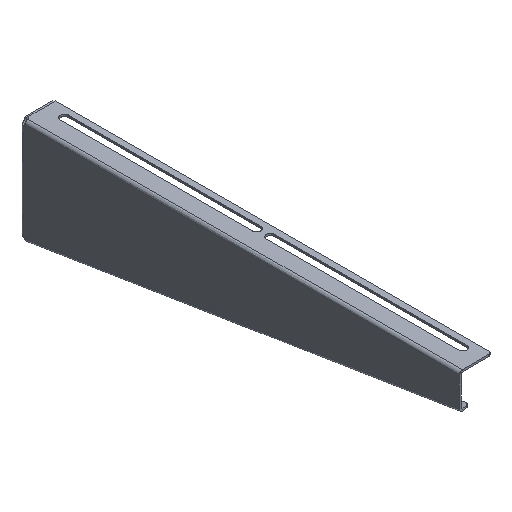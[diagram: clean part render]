
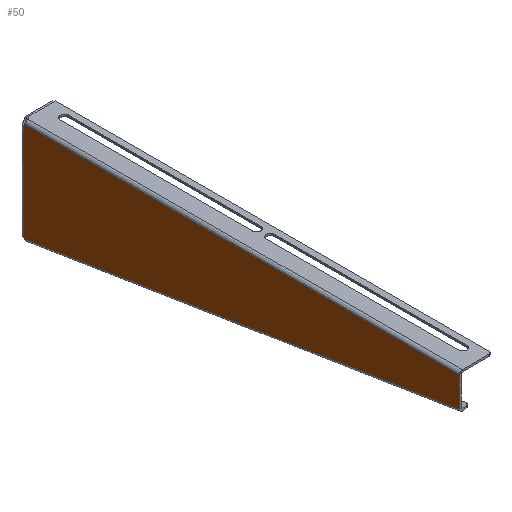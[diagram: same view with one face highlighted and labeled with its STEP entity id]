
A CAD part, isometric view. The second image highlights one B-rep face of the part: STEP entity #50.
In plain terms, the highlighted planar face has unit normal (-1, 0, 0).
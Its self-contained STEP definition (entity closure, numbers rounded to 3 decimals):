
#50=ADVANCED_FACE('',(#105),#850,.T.);
#105=FACE_OUTER_BOUND('',#164,.T.);
#164=EDGE_LOOP('',(#329,#330,#331,#332,#333,#334));
#329=ORIENTED_EDGE('',*,*,#526,.T.);
#330=ORIENTED_EDGE('',*,*,#536,.T.);
#331=ORIENTED_EDGE('',*,*,#535,.T.);
#332=ORIENTED_EDGE('',*,*,#539,.T.);
#333=ORIENTED_EDGE('',*,*,#542,.T.);
#334=ORIENTED_EDGE('',*,*,#541,.T.);
#526=EDGE_CURVE('',#792,#789,#617,.T.);
#535=EDGE_CURVE('',#787,#793,#709,.T.);
#536=EDGE_CURVE('',#789,#787,#710,.T.);
#539=EDGE_CURVE('',#793,#750,#713,.T.);
#541=EDGE_CURVE('',#782,#792,#715,.T.);
#542=EDGE_CURVE('',#750,#782,#716,.T.);
#617=B_SPLINE_CURVE_WITH_KNOTS('',3,(#1631,#1632,#1633,#1634),
 .UNSPECIFIED.,.F.,.F.,(4,4),(-445.85,0.),.UNSPECIFIED.);
#709=(
BOUNDED_CURVE()
B_SPLINE_CURVE(2,(#1667,#1668,#1669),.UNSPECIFIED.,.F.,.F.)
B_SPLINE_CURVE_WITH_KNOTS((3,3),(-530.615,-90.444),
 .UNSPECIFIED.)
CURVE()
GEOMETRIC_REPRESENTATION_ITEM()
RATIONAL_B_SPLINE_CURVE((1.,1.,1.))
REPRESENTATION_ITEM('')
);
#710=(
BOUNDED_CURVE()
B_SPLINE_CURVE(2,(#1670,#1671,#1672),.UNSPECIFIED.,.F.,.F.)
B_SPLINE_CURVE_WITH_KNOTS((3,3),(-562.615,-530.615),
 .UNSPECIFIED.)
CURVE()
GEOMETRIC_REPRESENTATION_ITEM()
RATIONAL_B_SPLINE_CURVE((1.,1.,1.))
REPRESENTATION_ITEM('')
);
#713=(
BOUNDED_CURVE()
B_SPLINE_CURVE(2,(#1681,#1682,#1683,#1684,#1685),.UNSPECIFIED.,.F.,.F.)
B_SPLINE_CURVE_WITH_KNOTS((3,2,3),(-90.444,-89.095,
-87.747),.UNSPECIFIED.)
CURVE()
GEOMETRIC_REPRESENTATION_ITEM()
RATIONAL_B_SPLINE_CURVE((1.,0.975,1.,0.975,1.))
REPRESENTATION_ITEM('')
);
#715=(
BOUNDED_CURVE()
B_SPLINE_CURVE(2,(#1691,#1692,#1693,#1694,#1695),.UNSPECIFIED.,.F.,.F.)
B_SPLINE_CURVE_WITH_KNOTS((3,2,3),(11.72,13.069,13.934),
 .UNSPECIFIED.)
CURVE()
GEOMETRIC_REPRESENTATION_ITEM()
RATIONAL_B_SPLINE_CURVE((1.,0.975,1.,0.99,1.))
REPRESENTATION_ITEM('')
);
#716=(
BOUNDED_CURVE()
B_SPLINE_CURVE(2,(#1696,#1697,#1698),.UNSPECIFIED.,.F.,.F.)
B_SPLINE_CURVE_WITH_KNOTS((3,3),(-87.747,11.72),
 .UNSPECIFIED.)
CURVE()
GEOMETRIC_REPRESENTATION_ITEM()
RATIONAL_B_SPLINE_CURVE((1.,1.,1.))
REPRESENTATION_ITEM('')
);
#750=VERTEX_POINT('',#1354);
#782=VERTEX_POINT('',#1386);
#787=VERTEX_POINT('',#1391);
#789=VERTEX_POINT('',#1393);
#792=VERTEX_POINT('',#1396);
#793=VERTEX_POINT('',#1397);
#850=PLANE('',#994);
#994=AXIS2_PLACEMENT_3D('',#1326,#1040,$);
#1040=DIRECTION('',(-1.,0.,0.));
#1326=CARTESIAN_POINT('',(1.751,55.25,-175.985));
#1354=CARTESIAN_POINT('',(1.751,0.,-64.274));
#1386=CARTESIAN_POINT('',(1.751,0.,-161.988));
#1391=CARTESIAN_POINT('',(1.751,-442.,-62.445));
#1393=CARTESIAN_POINT('',(1.751,-442.,-92.631));
#1396=CARTESIAN_POINT('',(1.751,-1.628,-163.37));
#1397=CARTESIAN_POINT('',(1.751,-1.828,-62.445));
#1631=CARTESIAN_POINT('',(1.751,-1.628,-163.37));
#1632=CARTESIAN_POINT('',(1.751,-148.417,-139.79));
#1633=CARTESIAN_POINT('',(1.751,-295.21,-116.21));
#1634=CARTESIAN_POINT('',(1.751,-442.,-92.631));
#1667=CARTESIAN_POINT('',(1.751,-442.,-62.445));
#1668=CARTESIAN_POINT('',(1.751,-221.914,-62.445));
#1669=CARTESIAN_POINT('',(1.751,-1.828,-62.445));
#1670=CARTESIAN_POINT('',(1.751,-442.,-92.631));
#1671=CARTESIAN_POINT('',(1.751,-442.,-77.538));
#1672=CARTESIAN_POINT('',(1.751,-442.,-62.445));
#1681=CARTESIAN_POINT('',(1.751,-1.828,-62.445));
#1682=CARTESIAN_POINT('',(1.751,-1.602,-63.086));
#1683=CARTESIAN_POINT('',(1.751,-1.121,-63.567));
#1684=CARTESIAN_POINT('',(1.751,-0.641,-64.047));
#1685=CARTESIAN_POINT('',(1.751,0.,-64.274));
#1691=CARTESIAN_POINT('',(1.751,0.,-161.988));
#1692=CARTESIAN_POINT('',(1.751,-0.641,-162.215));
#1693=CARTESIAN_POINT('',(1.751,-1.121,-162.696));
#1694=CARTESIAN_POINT('',(1.751,-1.422,-162.997));
#1695=CARTESIAN_POINT('',(1.751,-1.628,-163.37));
#1696=CARTESIAN_POINT('',(1.751,0.,-64.274));
#1697=CARTESIAN_POINT('',(1.751,0.,-113.131));
#1698=CARTESIAN_POINT('',(1.751,0.,-161.988));
